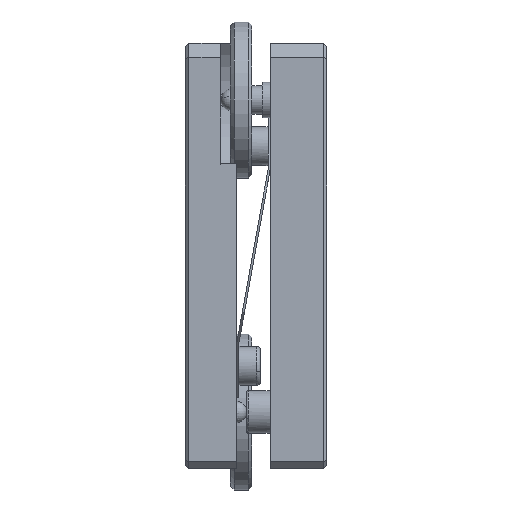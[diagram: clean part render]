
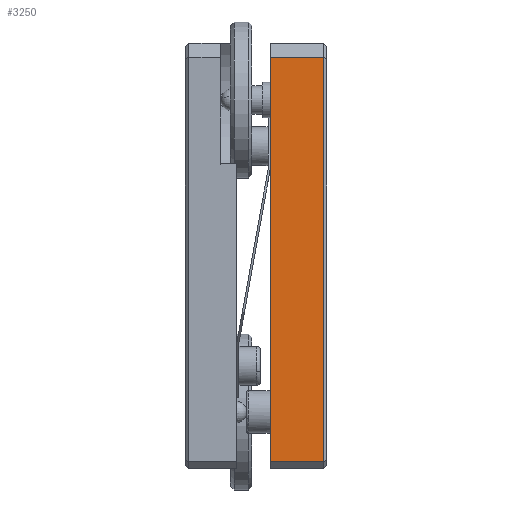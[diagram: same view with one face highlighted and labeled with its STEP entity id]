
A CAD part, left-side view. The second image highlights one B-rep face of the part: STEP entity #3250.
In plain terms, the highlighted planar face has unit normal (-1, 0, 0).
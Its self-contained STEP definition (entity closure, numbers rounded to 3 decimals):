
#311 = LINE ( 'NONE', #3258, #2457 ) ;
#424 = VECTOR ( 'NONE', #4075, 1000. ) ;
#510 = EDGE_CURVE ( 'NONE', #3458, #4266, #311, .T. ) ;
#516 = ORIENTED_EDGE ( 'NONE', *, *, #4543, .F. ) ;
#903 = CARTESIAN_POINT ( 'NONE',  ( -30., 8., 28. ) ) ;
#1190 = CARTESIAN_POINT ( 'NONE',  ( -30., 8., 28. ) ) ;
#1217 = VECTOR ( 'NONE', #3976, 1000. ) ;
#1364 = VERTEX_POINT ( 'NONE', #5646 ) ;
#1502 = EDGE_CURVE ( 'NONE', #1364, #5191, #5414, .T. ) ;
#1759 = LINE ( 'NONE', #1190, #424 ) ;
#1825 = DIRECTION ( 'NONE',  ( 1., 0., 0. ) ) ;
#1828 = ORIENTED_EDGE ( 'NONE', *, *, #1502, .F. ) ;
#1893 = PLANE ( 'NONE',  #3985 ) ;
#1950 = CARTESIAN_POINT ( 'NONE',  ( -30., 8., -29. ) ) ;
#2307 = ORIENTED_EDGE ( 'NONE', *, *, #5980, .T. ) ;
#2457 = VECTOR ( 'NONE', #4990, 1000. ) ;
#2779 = DIRECTION ( 'NONE',  ( 0., 0., -1. ) ) ;
#2891 = LINE ( 'NONE', #1950, #5359 ) ;
#3008 = CARTESIAN_POINT ( 'NONE',  ( -30., 8., -29. ) ) ;
#3250 = ADVANCED_FACE ( 'NONE', ( #5996 ), #1893, .F. ) ;
#3258 = CARTESIAN_POINT ( 'NONE',  ( -30., 0.5, -29. ) ) ;
#3356 = ORIENTED_EDGE ( 'NONE', *, *, #510, .T. ) ;
#3458 = VERTEX_POINT ( 'NONE', #4993 ) ;
#3786 = CARTESIAN_POINT ( 'NONE',  ( -30., 0.5, 28. ) ) ;
#3976 = DIRECTION ( 'NONE',  ( 0., 0., 1. ) ) ;
#3985 = AXIS2_PLACEMENT_3D ( 'NONE', #6089, #1825, #2779 ) ;
#4075 = DIRECTION ( 'NONE',  ( 0., -1., 0. ) ) ;
#4266 = VERTEX_POINT ( 'NONE', #3786 ) ;
#4543 = EDGE_CURVE ( 'NONE', #5191, #4266, #1759, .T. ) ;
#4990 = DIRECTION ( 'NONE',  ( 0., 0., 1. ) ) ;
#4993 = CARTESIAN_POINT ( 'NONE',  ( -30., 0.5, -29. ) ) ;
#5191 = VERTEX_POINT ( 'NONE', #903 ) ;
#5359 = VECTOR ( 'NONE', #5671, 1000. ) ;
#5414 = LINE ( 'NONE', #3008, #1217 ) ;
#5646 = CARTESIAN_POINT ( 'NONE',  ( -30., 8., -29. ) ) ;
#5671 = DIRECTION ( 'NONE',  ( 0., -1., 0. ) ) ;
#5784 = EDGE_LOOP ( 'NONE', ( #2307, #3356, #516, #1828 ) ) ;
#5980 = EDGE_CURVE ( 'NONE', #1364, #3458, #2891, .T. ) ;
#5996 = FACE_OUTER_BOUND ( 'NONE', #5784, .T. ) ;
#6089 = CARTESIAN_POINT ( 'NONE',  ( -30., 8., -29. ) ) ;
